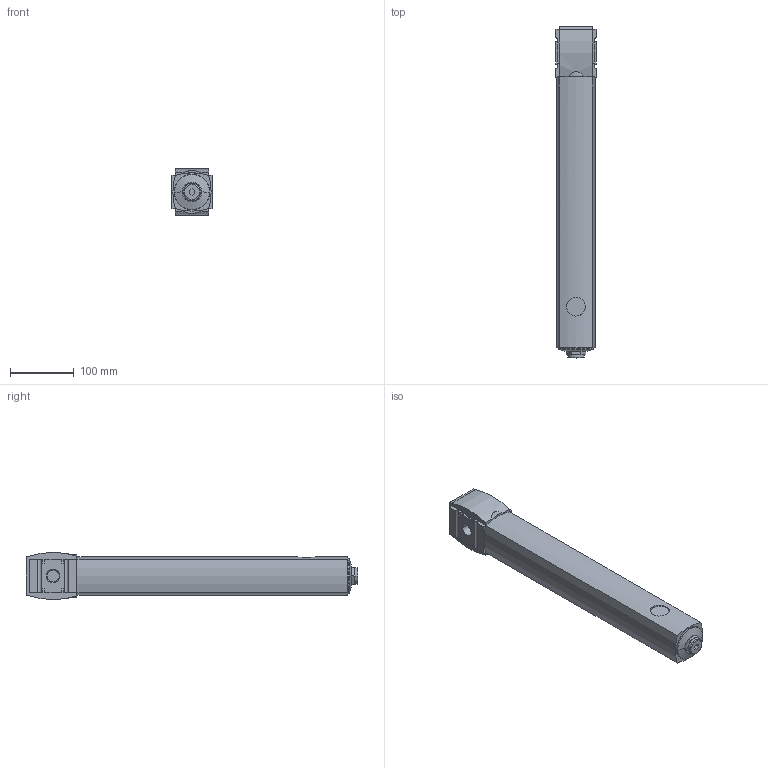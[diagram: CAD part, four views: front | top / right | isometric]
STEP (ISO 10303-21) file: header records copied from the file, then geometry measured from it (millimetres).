
FILE_DESCRIPTION((''),'2;1');
FILE_NAME('R412007078_ASM','2016-06-23T',('prr2cob'),(''),'PRO/ENGINEER BY PARAMETRIC TECHNOLOGY CORPORATION, 2012421','PRO/ENGINEER BY PARAMETRIC TECHNOLOGY CORPORATION, 2012421','');
FILE_SCHEMA(('CONFIG_CONTROL_DESIGN','SHAPE_APPEARANCE_LAYERS_GROUPS'));
Length unit declared in the file: millimetre
Products named in the file (3): R412007078; R412007078_RES; R412007078_ASM
Assembly tree (2 placements, depth 2):
  R412007078_ASM
    R412007078
    R412007078_RES
Bounding box: 63 x 521 x 74 mm (x, y, z)
Volume: 1725691.9 mm3; surface area: 131100.4 mm2
Topology: 2 solids, 2 shells, 110 faces, 276 edges, 176 vertices
Faces by surface type: plane 78, cylinder 22, cone 4, torus 4, bspline 2
Entity records: 3648 total; most frequent: CARTESIAN_POINT 879, DIRECTION 558, ORIENTED_EDGE 552, EDGE_CURVE 276, VECTOR 212, LINE 212, VERTEX_POINT 176, AXIS2_PLACEMENT_3D 173
